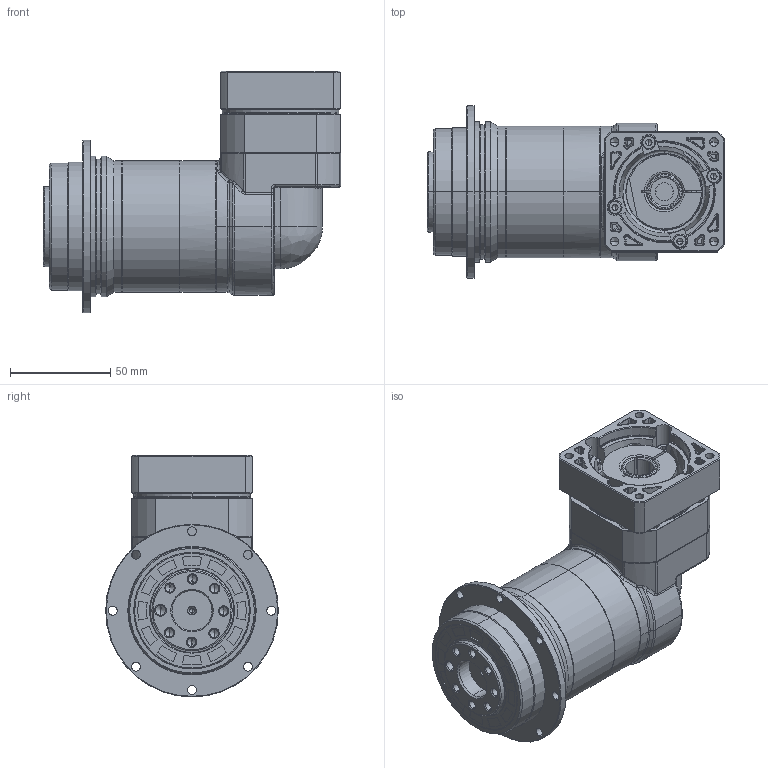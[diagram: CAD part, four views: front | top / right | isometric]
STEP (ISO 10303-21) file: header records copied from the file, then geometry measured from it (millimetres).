
FILE_DESCRIPTION (( 'STEP AP214' ), '1' );
FILE_NAME ('EVT064-L2-P1 14-50-70-M5-33.STEP', '2025-02-17T03:51:22', ( '微软用户' ), ( '微软中国' ), 'SwSTEP 2.0', 'SolidWorks 2021', '' );
FILE_SCHEMA (( 'AUTOMOTIVE_DESIGN' ));
Length unit declared in the file: millimetre
Products named in the file (4): 3.EVT064F眻褒眊极_step_stp_stp.stp; EVT064-L2-P1 14-50-70-M5-33; EVT064D-L2-14-50-70-M5-33; EVT06D-L2-8-38.1-66.7-M4-33
Assembly tree (7 placements, depth 2):
  EVT064-L2-P1 14-50-70-M5-33
    EVT064D-L2-14-50-70-M5-33
    3.EVT064F眻褒眊极_step_stp_stp.stp
    EVT06D-L2-8-38.1-66.7-M4-33  x5
Bounding box: 148 x 86 x 120.5 mm (x, y, z)
Volume: 483281.6 mm3; surface area: 136645.3 mm2
Topology: 16 solids, 26 shells, 1492 faces, 3705 edges, 2282 vertices
Faces by surface type: cylinder 490, plane 374, bspline 321, cone 291, torus 16
Entity records: 60147 total; most frequent: CARTESIAN_POINT 30113, ORIENTED_EDGE 6588, DIRECTION 5621, EDGE_CURVE 3298, AXIS2_PLACEMENT_3D 2251, VERTEX_POINT 2070, EDGE_LOOP 1547, ADVANCED_FACE 1364
